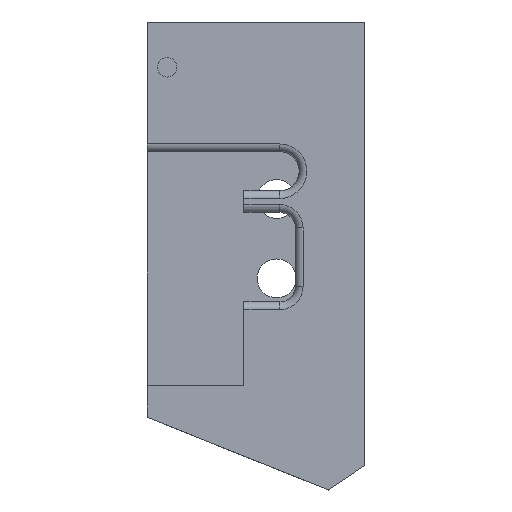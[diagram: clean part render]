
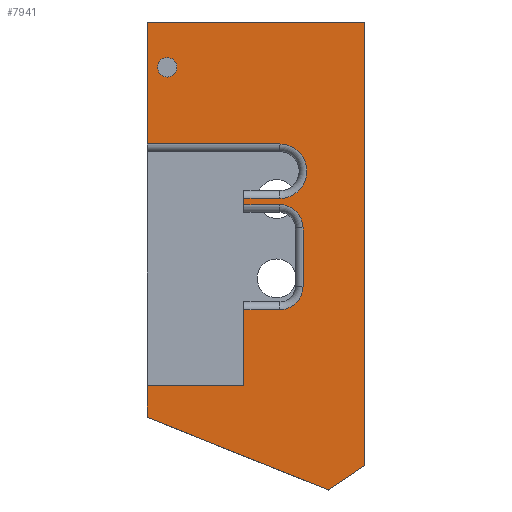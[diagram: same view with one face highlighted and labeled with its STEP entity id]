
A CAD part, left-side view. The second image highlights one B-rep face of the part: STEP entity #7941.
In plain terms, the highlighted planar face has unit normal (-1, 0, 0).
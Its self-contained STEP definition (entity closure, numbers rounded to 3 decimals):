
#795=FACE_BOUND('',#1465,.T.);
#843=PLANE('',#8412);
#1017=FACE_OUTER_BOUND('',#1464,.T.);
#1464=EDGE_LOOP('',(#5572,#5573,#5574,#5575,#5576,#5577,#5578,#5579,#5580,
#5581,#5582,#5583,#5584,#5585,#5586,#5587,#5588));
#1465=EDGE_LOOP('',(#5589));
#1964=LINE('',#9908,#2651);
#1965=LINE('',#9919,#2652);
#1967=LINE('',#9931,#2654);
#1976=LINE('',#9953,#2663);
#1980=LINE('',#9967,#2667);
#1981=LINE('',#9975,#2668);
#1989=LINE('',#9992,#2676);
#1995=LINE('',#10004,#2682);
#1996=LINE('',#10006,#2683);
#1997=LINE('',#10008,#2684);
#1998=LINE('',#10010,#2685);
#1999=LINE('',#10012,#2686);
#2000=LINE('',#10014,#2687);
#2001=LINE('',#10015,#2688);
#2651=VECTOR('',#8704,10.);
#2652=VECTOR('',#8717,10.);
#2654=VECTOR('',#8731,10.);
#2663=VECTOR('',#8754,10.);
#2667=VECTOR('',#8766,10.);
#2668=VECTOR('',#8777,10.);
#2676=VECTOR('',#8795,10.);
#2682=VECTOR('',#8805,10.);
#2683=VECTOR('',#8806,10.);
#2684=VECTOR('',#8807,10.);
#2685=VECTOR('',#8808,10.);
#2686=VECTOR('',#8809,10.);
#2687=VECTOR('',#8810,10.);
#2688=VECTOR('',#8811,10.);
#3283=CIRCLE('',#8360,1.25);
#3291=CIRCLE('',#8380,3.);
#3295=CIRCLE('',#8386,3.);
#3304=CIRCLE('',#8403,3.5);
#3334=VERTEX_POINT('',#9780);
#3383=VERTEX_POINT('',#9901);
#3386=VERTEX_POINT('',#9906);
#3388=VERTEX_POINT('',#9911);
#3390=VERTEX_POINT('',#9917);
#3392=VERTEX_POINT('',#9923);
#3394=VERTEX_POINT('',#9929);
#3400=VERTEX_POINT('',#9952);
#3403=VERTEX_POINT('',#9960);
#3406=VERTEX_POINT('',#9965);
#3408=VERTEX_POINT('',#9970);
#3412=VERTEX_POINT('',#9991);
#3416=VERTEX_POINT('',#10003);
#3417=VERTEX_POINT('',#10005);
#3418=VERTEX_POINT('',#10007);
#3419=VERTEX_POINT('',#10009);
#3420=VERTEX_POINT('',#10011);
#3421=VERTEX_POINT('',#10013);
#4164=EDGE_CURVE('',#3334,#3334,#3283,.T.);
#4227=EDGE_CURVE('',#3386,#3383,#1964,.T.);
#4229=EDGE_CURVE('',#3388,#3386,#3291,.T.);
#4232=EDGE_CURVE('',#3390,#3388,#1965,.T.);
#4235=EDGE_CURVE('',#3392,#3390,#3295,.T.);
#4238=EDGE_CURVE('',#3394,#3392,#1967,.T.);
#4249=EDGE_CURVE('',#3383,#3400,#1976,.T.);
#4256=EDGE_CURVE('',#3406,#3403,#1980,.T.);
#4258=EDGE_CURVE('',#3408,#3406,#3304,.T.);
#4260=EDGE_CURVE('',#3400,#3408,#1981,.T.);
#4269=EDGE_CURVE('',#3403,#3412,#1989,.T.);
#4275=EDGE_CURVE('',#3416,#3394,#1995,.T.);
#4276=EDGE_CURVE('',#3417,#3416,#1996,.T.);
#4277=EDGE_CURVE('',#3417,#3418,#1997,.T.);
#4278=EDGE_CURVE('',#3419,#3418,#1998,.F.);
#4279=EDGE_CURVE('',#3420,#3419,#1999,.T.);
#4280=EDGE_CURVE('',#3421,#3420,#2000,.T.);
#4281=EDGE_CURVE('',#3421,#3412,#2001,.T.);
#5572=ORIENTED_EDGE('',*,*,#4238,.F.);
#5573=ORIENTED_EDGE('',*,*,#4275,.F.);
#5574=ORIENTED_EDGE('',*,*,#4276,.F.);
#5575=ORIENTED_EDGE('',*,*,#4277,.T.);
#5576=ORIENTED_EDGE('',*,*,#4278,.F.);
#5577=ORIENTED_EDGE('',*,*,#4279,.F.);
#5578=ORIENTED_EDGE('',*,*,#4280,.F.);
#5579=ORIENTED_EDGE('',*,*,#4281,.T.);
#5580=ORIENTED_EDGE('',*,*,#4269,.F.);
#5581=ORIENTED_EDGE('',*,*,#4256,.F.);
#5582=ORIENTED_EDGE('',*,*,#4258,.F.);
#5583=ORIENTED_EDGE('',*,*,#4260,.F.);
#5584=ORIENTED_EDGE('',*,*,#4249,.F.);
#5585=ORIENTED_EDGE('',*,*,#4227,.F.);
#5586=ORIENTED_EDGE('',*,*,#4229,.F.);
#5587=ORIENTED_EDGE('',*,*,#4232,.F.);
#5588=ORIENTED_EDGE('',*,*,#4235,.F.);
#5589=ORIENTED_EDGE('',*,*,#4164,.T.);
#7941=ADVANCED_FACE('',(#1017,#795),#843,.F.);
#8360=AXIS2_PLACEMENT_3D('',#9782,#8612,#8613);
#8380=AXIS2_PLACEMENT_3D('',#9913,#8709,#8710);
#8386=AXIS2_PLACEMENT_3D('',#9925,#8723,#8724);
#8403=AXIS2_PLACEMENT_3D('',#9972,#8771,#8772);
#8412=AXIS2_PLACEMENT_3D('',#10002,#8803,#8804);
#8612=DIRECTION('center_axis',(1.,0.,0.));
#8613=DIRECTION('ref_axis',(0.,1.,0.));
#8704=DIRECTION('',(0.,1.,0.));
#8709=DIRECTION('center_axis',(-1.,0.,0.));
#8710=DIRECTION('ref_axis',(0.,-0.707,0.707));
#8717=DIRECTION('',(0.,0.,1.));
#8723=DIRECTION('center_axis',(-1.,0.,0.));
#8724=DIRECTION('ref_axis',(0.,-0.707,-0.707));
#8731=DIRECTION('',(0.,-1.,0.));
#8754=DIRECTION('',(0.,0.,1.));
#8766=DIRECTION('',(0.,1.,0.));
#8771=DIRECTION('center_axis',(-1.,0.,0.));
#8772=DIRECTION('ref_axis',(0.,-1.,0.));
#8777=DIRECTION('',(0.,-1.,0.));
#8795=DIRECTION('',(0.,0.,1.));
#8803=DIRECTION('center_axis',(1.,0.,0.));
#8804=DIRECTION('ref_axis',(0.,0.,
-1.));
#8805=DIRECTION('',(0.,0.,1.));
#8806=DIRECTION('',(0.,-1.,0.));
#8807=DIRECTION('',(0.,0.,-1.));
#8808=DIRECTION('',(0.,-0.928,-0.372));
#8809=DIRECTION('',(0.,0.828,-0.56));
#8810=DIRECTION('',(0.,0.,-1.));
#8811=DIRECTION('',(0.,1.,0.));
#9780=CARTESIAN_POINT('',(-22.,24.86,41.178));
#9782=CARTESIAN_POINT('Origin',(-22.,26.11,41.178));
#9901=CARTESIAN_POINT('',(-22.,16.272,23.54));
#9906=CARTESIAN_POINT('',(-22.,11.672,23.54));
#9908=CARTESIAN_POINT('',(-22.,20.749,23.54));
#9911=CARTESIAN_POINT('',(-22.,8.672,20.54));
#9913=CARTESIAN_POINT('Origin',(-22.,11.672,20.54));
#9917=CARTESIAN_POINT('',(-22.,8.672,13.04));
#9919=CARTESIAN_POINT('',(-22.,8.672,15.48));
#9923=CARTESIAN_POINT('',(-22.,11.672,10.04));
#9925=CARTESIAN_POINT('Origin',(-22.,11.672,13.04));
#9929=CARTESIAN_POINT('',(-22.,16.272,10.04));
#9931=CARTESIAN_POINT('',(-22.,20.999,10.04));
#9952=CARTESIAN_POINT('',(-22.,16.272,24.332));
#9953=CARTESIAN_POINT('',(-22.,16.272,11.224));
#9960=CARTESIAN_POINT('',(-22.,28.658,31.332));
#9965=CARTESIAN_POINT('',(-22.,11.672,31.332));
#9967=CARTESIAN_POINT('',(-22.,21.499,31.332));
#9970=CARTESIAN_POINT('',(-22.,11.672,24.332));
#9972=CARTESIAN_POINT('Origin',(-22.,11.672,27.832));
#9975=CARTESIAN_POINT('',(-22.,21.499,24.332));
#9991=CARTESIAN_POINT('',(-22.,28.658,46.995));
#9992=CARTESIAN_POINT('',(-22.,28.658,-0.293));
#10002=CARTESIAN_POINT('Origin',(-22.,21.326,13.92));
#10003=CARTESIAN_POINT('',(-22.,16.272,0.327));
#10004=CARTESIAN_POINT('',(-22.,16.272,11.224));
#10005=CARTESIAN_POINT('',(-22.,28.658,0.327));
#10006=CARTESIAN_POINT('',(-22.,21.499,0.327));
#10007=CARTESIAN_POINT('',(-22.,28.658,-3.777));
#10008=CARTESIAN_POINT('',(-22.,28.658,-0.293));
#10009=CARTESIAN_POINT('',(-22.,5.405,-13.109));
#10010=CARTESIAN_POINT('',(-22.,13.853,-9.719));
#10011=CARTESIAN_POINT('',(-22.,0.765,-9.972));
#10012=CARTESIAN_POINT('',(-22.,2.922,-11.43));
#10013=CARTESIAN_POINT('',(-22.,0.765,46.995));
#10014=CARTESIAN_POINT('',(-22.,0.765,16.445));
#10015=CARTESIAN_POINT('',(-22.,17.022,46.995));
